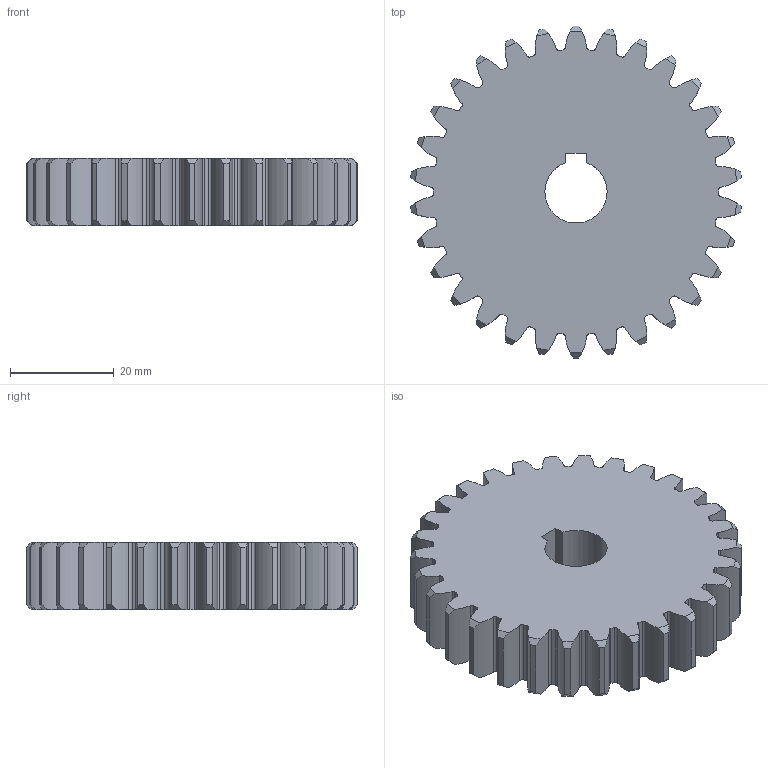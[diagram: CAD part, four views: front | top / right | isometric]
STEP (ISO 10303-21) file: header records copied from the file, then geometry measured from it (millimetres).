
FILE_DESCRIPTION(/* description */ (''),/* implementation_level */ '2;1');
FILE_NAME(/* name */ 'C:\Users\kh\Desktop\381209E1023..stp',/* time_stamp */ '2018-12-08T12:03:52+09:00',/* author */ ('kh'),/* organization */ (''),/* preprocessor_version */ 'ST-DEVELOPER v15.2',/* originating_system */ 'Autodesk Inventor 2014',/* authorisation */ '');
FILE_SCHEMA (('AUTOMOTIVE_DESIGN { 1 0 10303 214 3 1 1 }'));
Length unit declared in the file: millimetre
Products named in the file (1): 381209E1023.
Bounding box: 63.76 x 63.99 x 13 mm (x, y, z)
Volume: 34737.7 mm3; surface area: 10551.4 mm2
Topology: 1 solids, 1 shells, 246 faces, 732 edges, 488 vertices
Faces by surface type: cylinder 151, plane 95
Entity records: 8523 total; most frequent: DIRECTION 1648, CARTESIAN_POINT 1467, ORIENTED_EDGE 1464, EDGE_CURVE 732, AXIS2_PLACEMENT_3D 669, VERTEX_POINT 488, LINE 310, VECTOR 310
